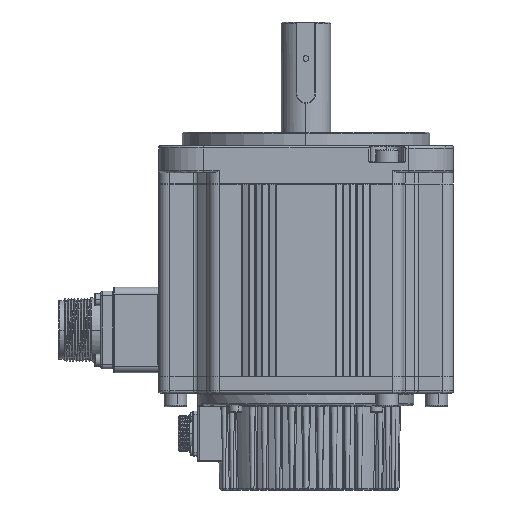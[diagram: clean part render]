
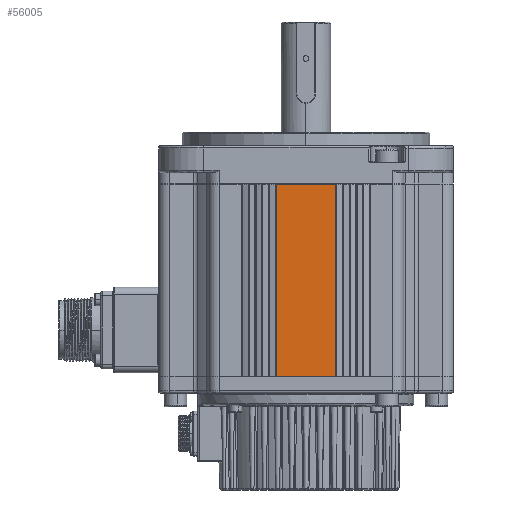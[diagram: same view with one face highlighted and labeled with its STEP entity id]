
A CAD part, left-side view. The second image highlights one B-rep face of the part: STEP entity #56005.
In plain terms, the highlighted planar face has unit normal (-1, 0, 0) as drawn and (1, 0, 0) by its records, which use the part's own axes.
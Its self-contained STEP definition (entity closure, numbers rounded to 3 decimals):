
#1259 = VERTEX_POINT ( 'NONE', #125235 ) ;
#3040 = CARTESIAN_POINT ( 'NONE',  ( 65.5, 13.5, 85.5 ) ) ;
#3044 = CARTESIAN_POINT ( 'NONE',  ( 65.5, 13.2, 85.5 ) ) ;
#3608 = VECTOR ( 'NONE', #112801, 1000. ) ;
#5998 = CARTESIAN_POINT ( 'NONE',  ( 65.5, 13.2, 85.5 ) ) ;
#8463 = LINE ( 'NONE', #120128, #94345 ) ;
#12107 = EDGE_CURVE ( 'NONE', #1259, #108598, #8463, .T. ) ;
#13689 = CARTESIAN_POINT ( 'NONE',  ( 65.5, -13.2, 85.5 ) ) ;
#14251 = DIRECTION ( 'NONE',  ( 0., 0., 1. ) ) ;
#14729 = DIRECTION ( 'NONE',  ( -1., 0., 0. ) ) ;
#17490 = DIRECTION ( 'NONE',  ( 0., 1., 0. ) ) ;
#20753 = ORIENTED_EDGE ( 'NONE', *, *, #104616, .F. ) ;
#25007 = LINE ( 'NONE', #128725, #77573 ) ;
#26328 = LINE ( 'NONE', #45072, #3608 ) ;
#29527 = EDGE_CURVE ( 'NONE', #122606, #1259, #26328, .T. ) ;
#37767 = DIRECTION ( 'NONE',  ( 0., 0., 1. ) ) ;
#45072 = CARTESIAN_POINT ( 'NONE',  ( 65.5, -13.2, 85.5 ) ) ;
#45625 = VERTEX_POINT ( 'NONE', #5998 ) ;
#52955 = DIRECTION ( 'NONE',  ( 0., 1., 0. ) ) ;
#56005 = ADVANCED_FACE ( 'NONE', ( #93778 ), #125991, .F. ) ;
#77573 = VECTOR ( 'NONE', #17490, 1000. ) ;
#79261 = LINE ( 'NONE', #3044, #95028 ) ;
#85153 = ORIENTED_EDGE ( 'NONE', *, *, #115589, .T. ) ;
#93778 = FACE_OUTER_BOUND ( 'NONE', #98624, .T. ) ;
#94345 = VECTOR ( 'NONE', #52955, 1000. ) ;
#95028 = VECTOR ( 'NONE', #37767, 1000. ) ;
#98624 = EDGE_LOOP ( 'NONE', ( #106346, #85153, #20753, #127413 ) ) ;
#104616 = EDGE_CURVE ( 'NONE', #122606, #45625, #25007, .T. ) ;
#104659 = CARTESIAN_POINT ( 'NONE',  ( 65.5, 13.2, 0. ) ) ;
#106346 = ORIENTED_EDGE ( 'NONE', *, *, #12107, .T. ) ;
#108598 = VERTEX_POINT ( 'NONE', #104659 ) ;
#112801 = DIRECTION ( 'NONE',  ( 0., 0., -1. ) ) ;
#115589 = EDGE_CURVE ( 'NONE', #108598, #45625, #79261, .T. ) ;
#120128 = CARTESIAN_POINT ( 'NONE',  ( 65.5, 13.5, 0. ) ) ;
#122606 = VERTEX_POINT ( 'NONE', #13689 ) ;
#125235 = CARTESIAN_POINT ( 'NONE',  ( 65.5, -13.2, 0. ) ) ;
#125991 = PLANE ( 'NONE',  #139434 ) ;
#127413 = ORIENTED_EDGE ( 'NONE', *, *, #29527, .T. ) ;
#128725 = CARTESIAN_POINT ( 'NONE',  ( 65.5, 13.5, 85.5 ) ) ;
#139434 = AXIS2_PLACEMENT_3D ( 'NONE', #3040, #14729, #14251 ) ;
